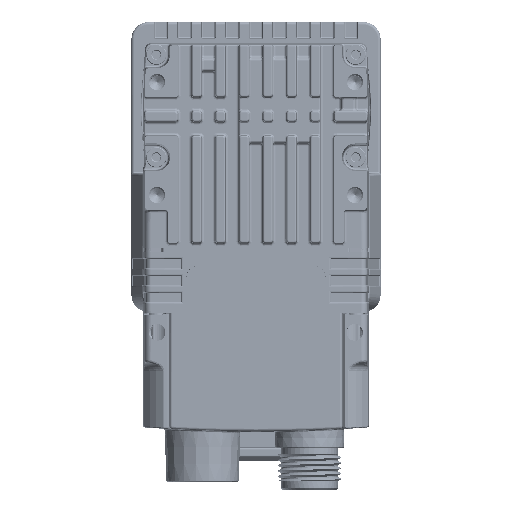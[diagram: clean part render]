
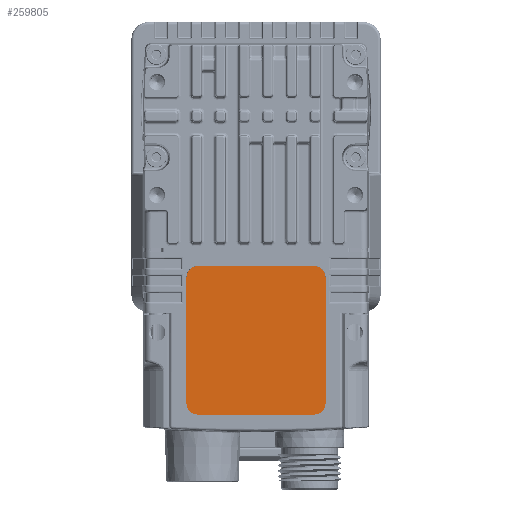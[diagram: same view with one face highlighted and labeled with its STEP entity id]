
A CAD part, top view. The second image highlights one B-rep face of the part: STEP entity #259805.
In plain terms, the highlighted planar face has unit normal (0, 0, 1).
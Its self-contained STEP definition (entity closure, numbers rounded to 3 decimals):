
#14 = CIRCLE ( 'NONE', #157980, 2.071 ) ;
#4764 = VERTEX_POINT ( 'NONE', #270901 ) ;
#7060 = DIRECTION ( 'NONE',  ( 0., -1., 0. ) ) ;
#10164 = CARTESIAN_POINT ( 'NONE',  ( -13., -54.946, 31.3 ) ) ;
#10755 = VERTEX_POINT ( 'NONE', #61500 ) ;
#18386 = AXIS2_PLACEMENT_3D ( 'NONE', #53881, #49689, #204916 ) ;
#22230 = VERTEX_POINT ( 'NONE', #165617 ) ;
#26394 = CARTESIAN_POINT ( 'NONE',  ( 0., -57.018, 31.3 ) ) ;
#29882 = PLANE ( 'NONE',  #18386 ) ;
#35777 = VERTEX_POINT ( 'NONE', #90990 ) ;
#38537 = CARTESIAN_POINT ( 'NONE',  ( -10.929, -31.315, 31.3 ) ) ;
#41747 = ORIENTED_EDGE ( 'NONE', *, *, #142826, .F. ) ;
#44156 = ORIENTED_EDGE ( 'NONE', *, *, #216096, .T. ) ;
#47078 = ORIENTED_EDGE ( 'NONE', *, *, #248100, .F. ) ;
#49689 = DIRECTION ( 'NONE',  ( 0., 0., 1. ) ) ;
#50807 = DIRECTION ( 'NONE',  ( 0., -1., 0. ) ) ;
#53201 = DIRECTION ( 'NONE',  ( 0., 1., 0. ) ) ;
#53881 = CARTESIAN_POINT ( 'NONE',  ( 0., -9.25, 31.3 ) ) ;
#55214 = CARTESIAN_POINT ( 'NONE',  ( 13., -54.946, 31.3 ) ) ;
#57783 = EDGE_CURVE ( 'NONE', #151622, #198572, #136578, .T. ) ;
#61500 = CARTESIAN_POINT ( 'NONE',  ( -13., -31.315, 31.3 ) ) ;
#62398 = CIRCLE ( 'NONE', #125585, 2.071 ) ;
#67448 = VECTOR ( 'NONE', #7060, 1000. ) ;
#73389 = LINE ( 'NONE', #117164, #167672 ) ;
#75855 = DIRECTION ( 'NONE',  ( 0., 0., -1. ) ) ;
#88622 = ORIENTED_EDGE ( 'NONE', *, *, #102761, .T. ) ;
#88671 = DIRECTION ( 'NONE',  ( 1., 0., 0. ) ) ;
#88760 = EDGE_CURVE ( 'NONE', #4764, #35777, #73389, .T. ) ;
#90990 = CARTESIAN_POINT ( 'NONE',  ( -10.929, -29.244, 31.3 ) ) ;
#94771 = LINE ( 'NONE', #155508, #67448 ) ;
#102761 = EDGE_CURVE ( 'NONE', #185597, #151622, #250926, .T. ) ;
#113519 = AXIS2_PLACEMENT_3D ( 'NONE', #136613, #75855, #53201 ) ;
#117164 = CARTESIAN_POINT ( 'NONE',  ( 0., -29.244, 31.3 ) ) ;
#120050 = DIRECTION ( 'NONE',  ( 0., 0., -1. ) ) ;
#125585 = AXIS2_PLACEMENT_3D ( 'NONE', #186309, #120050, #272477 ) ;
#127078 = CIRCLE ( 'NONE', #113519, 2.071 ) ;
#127645 = ORIENTED_EDGE ( 'NONE', *, *, #88760, .T. ) ;
#136578 = LINE ( 'NONE', #26394, #146932 ) ;
#136613 = CARTESIAN_POINT ( 'NONE',  ( 10.929, -31.315, 31.3 ) ) ;
#142826 = EDGE_CURVE ( 'NONE', #22230, #254715, #94771, .T. ) ;
#146932 = VECTOR ( 'NONE', #88671, 1000. ) ;
#151622 = VERTEX_POINT ( 'NONE', #231181 ) ;
#155508 = CARTESIAN_POINT ( 'NONE',  ( 13., -9.25, 31.3 ) ) ;
#157179 = VECTOR ( 'NONE', #50807, 1000. ) ;
#157980 = AXIS2_PLACEMENT_3D ( 'NONE', #38537, #206630, #168531 ) ;
#165617 = CARTESIAN_POINT ( 'NONE',  ( 13., -31.315, 31.3 ) ) ;
#167672 = VECTOR ( 'NONE', #172703, 1000. ) ;
#168531 = DIRECTION ( 'NONE',  ( 0., 1., 0. ) ) ;
#172703 = DIRECTION ( 'NONE',  ( -1., 0., 0. ) ) ;
#176568 = LINE ( 'NONE', #218895, #157179 ) ;
#179645 = FACE_OUTER_BOUND ( 'NONE', #235549, .T. ) ;
#180634 = CARTESIAN_POINT ( 'NONE',  ( 10.929, -57.018, 31.3 ) ) ;
#185597 = VERTEX_POINT ( 'NONE', #10164 ) ;
#186309 = CARTESIAN_POINT ( 'NONE',  ( 10.929, -54.946, 31.3 ) ) ;
#190898 = DIRECTION ( 'NONE',  ( 0., 0., 1. ) ) ;
#198572 = VERTEX_POINT ( 'NONE', #180634 ) ;
#204916 = DIRECTION ( 'NONE',  ( 0., 1., 0. ) ) ;
#206630 = DIRECTION ( 'NONE',  ( 0., 0., 1. ) ) ;
#216096 = EDGE_CURVE ( 'NONE', #10755, #185597, #176568, .T. ) ;
#216326 = EDGE_CURVE ( 'NONE', #254715, #198572, #62398, .T. ) ;
#218895 = CARTESIAN_POINT ( 'NONE',  ( -13., -9.25, 31.3 ) ) ;
#223048 = ORIENTED_EDGE ( 'NONE', *, *, #216326, .F. ) ;
#228291 = ORIENTED_EDGE ( 'NONE', *, *, #259503, .T. ) ;
#231181 = CARTESIAN_POINT ( 'NONE',  ( -10.929, -57.018, 31.3 ) ) ;
#233392 = ORIENTED_EDGE ( 'NONE', *, *, #57783, .T. ) ;
#235549 = EDGE_LOOP ( 'NONE', ( #44156, #88622, #233392, #223048, #41747, #47078, #127645, #228291 ) ) ;
#248100 = EDGE_CURVE ( 'NONE', #4764, #22230, #127078, .T. ) ;
#250926 = CIRCLE ( 'NONE', #278144, 2.071 ) ;
#254715 = VERTEX_POINT ( 'NONE', #55214 ) ;
#255942 = DIRECTION ( 'NONE',  ( 0., 1., 0. ) ) ;
#259503 = EDGE_CURVE ( 'NONE', #35777, #10755, #14, .T. ) ;
#259805 = ADVANCED_FACE ( 'NONE', ( #179645 ), #29882, .T. ) ;
#270901 = CARTESIAN_POINT ( 'NONE',  ( 10.929, -29.244, 31.3 ) ) ;
#272477 = DIRECTION ( 'NONE',  ( 0., 1., 0. ) ) ;
#277105 = CARTESIAN_POINT ( 'NONE',  ( -10.929, -54.946, 31.3 ) ) ;
#278144 = AXIS2_PLACEMENT_3D ( 'NONE', #277105, #190898, #255942 ) ;
